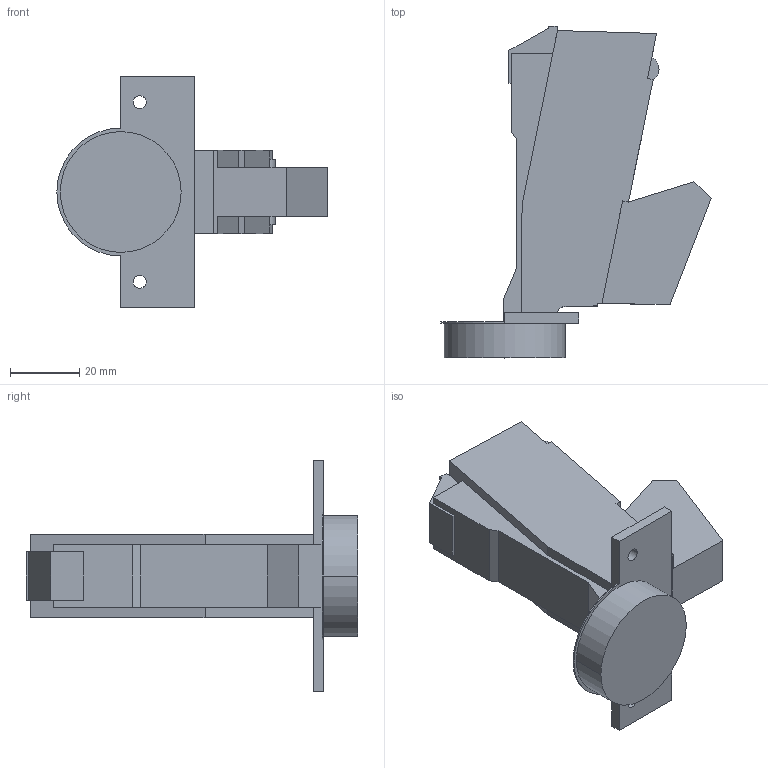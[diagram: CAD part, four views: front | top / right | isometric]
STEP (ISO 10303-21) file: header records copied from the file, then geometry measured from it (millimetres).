
FILE_DESCRIPTION (( 'STEP AP214' ), '1' );
FILE_NAME ('Scharnier TT Click-on 160° H_BB, K00.step', '2010-12-13T10:17:31', ( 'grass' ), ( '' ), 'SwSTEP 2.0', 'SolidWorks 2010', '' );
FILE_SCHEMA (( 'AUTOMOTIVE_DESIGN' ));
Length unit declared in the file: millimetre
Products named in the file (1): Scharnier TT Click-on 160° H_BB, K00
Bounding box: 78.27 x 96.09 x 67 mm (x, y, z)
Volume: 88059.4 mm3; surface area: 18236.2 mm2
Topology: 1 solids, 1 shells, 59 faces, 164 edges, 108 vertices
Faces by surface type: plane 50, cylinder 9
Entity records: 1906 total; most frequent: CARTESIAN_POINT 332, ORIENTED_EDGE 328, DIRECTION 302, EDGE_CURVE 164, LINE 146, VECTOR 146, VERTEX_POINT 108, AXIS2_PLACEMENT_3D 78
